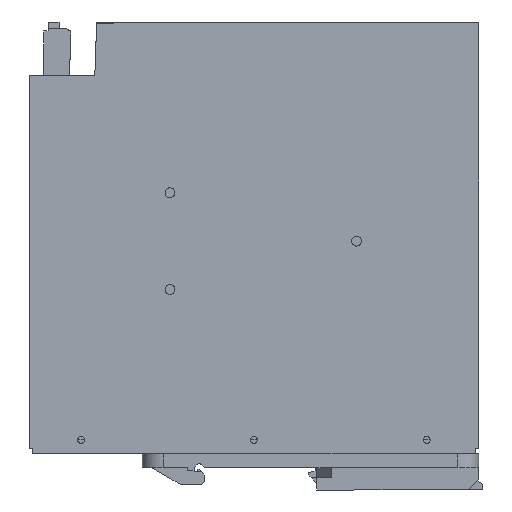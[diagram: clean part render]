
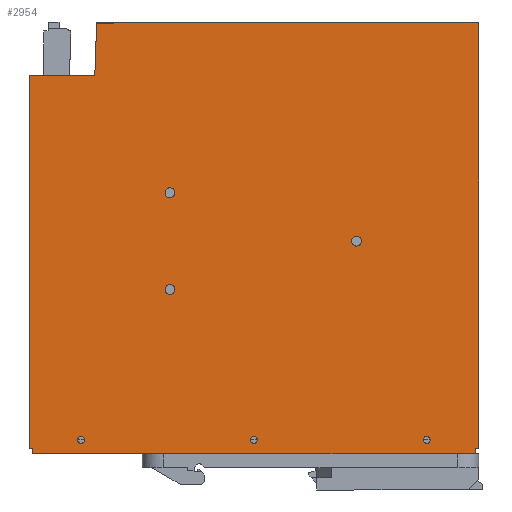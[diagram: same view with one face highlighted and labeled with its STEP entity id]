
A CAD part, left-side view. The second image highlights one B-rep face of the part: STEP entity #2954.
In plain terms, the highlighted planar face has unit normal (-1, 0, 0).
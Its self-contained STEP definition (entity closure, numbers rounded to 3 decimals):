
#2762=AXIS2_PLACEMENT_3D('Plane Axis2P3D',#2759,#2760,#2761) ;
#2848=AXIS2_PLACEMENT_3D('Circle Axis2P3D',#2846,#2847,$) ;
#2857=AXIS2_PLACEMENT_3D('Circle Axis2P3D',#2855,#2856,$) ;
#2866=AXIS2_PLACEMENT_3D('Circle Axis2P3D',#2864,#2865,$) ;
#2875=AXIS2_PLACEMENT_3D('Circle Axis2P3D',#2873,#2874,$) ;
#2884=AXIS2_PLACEMENT_3D('Circle Axis2P3D',#2882,#2883,$) ;
#2893=AXIS2_PLACEMENT_3D('Circle Axis2P3D',#2891,#2892,$) ;
#2902=AXIS2_PLACEMENT_3D('Circle Axis2P3D',#2900,#2901,$) ;
#2911=AXIS2_PLACEMENT_3D('Circle Axis2P3D',#2909,#2910,$) ;
#2920=AXIS2_PLACEMENT_3D('Circle Axis2P3D',#2918,#2919,$) ;
#2929=AXIS2_PLACEMENT_3D('Circle Axis2P3D',#2927,#2928,$) ;
#2938=AXIS2_PLACEMENT_3D('Circle Axis2P3D',#2936,#2937,$) ;
#2947=AXIS2_PLACEMENT_3D('Circle Axis2P3D',#2945,#2946,$) ;
#225=CARTESIAN_POINT('Vertex',(0.,131.2,120.)) ;
#228=CARTESIAN_POINT('Line Origine',(0.,121.715,120.)) ;
#232=CARTESIAN_POINT('Vertex',(0.,112.231,120.)) ;
#923=CARTESIAN_POINT('Vertex',(0.,131.2,12.)) ;
#926=CARTESIAN_POINT('Line Origine',(0.,131.2,66.)) ;
#2759=CARTESIAN_POINT('Axis2P3D Location',(0.,131.2,135.2)) ;
#2764=CARTESIAN_POINT('Line Origine',(0.,111.967,127.55)) ;
#2768=CARTESIAN_POINT('Vertex',(0.,111.703,135.1)) ;
#2771=CARTESIAN_POINT('Line Origine',(0.,130.7,12.)) ;
#2775=CARTESIAN_POINT('Vertex',(0.,130.2,12.)) ;
#2778=CARTESIAN_POINT('Line Origine',(0.,130.2,11.25)) ;
#2782=CARTESIAN_POINT('Vertex',(0.,130.2,10.5)) ;
#2785=CARTESIAN_POINT('Line Origine',(0.,66.2,10.5)) ;
#2789=CARTESIAN_POINT('Vertex',(0.,2.2,10.5)) ;
#2792=CARTESIAN_POINT('Line Origine',(0.,2.2,11.25)) ;
#2796=CARTESIAN_POINT('Vertex',(0.,2.2,12.)) ;
#2799=CARTESIAN_POINT('Line Origine',(0.,1.7,12.)) ;
#2803=CARTESIAN_POINT('Vertex',(0.,1.2,12.)) ;
#2806=CARTESIAN_POINT('Line Origine',(0.,1.2,73.6)) ;
#2810=CARTESIAN_POINT('Vertex',(0.,1.2,135.2)) ;
#2813=CARTESIAN_POINT('Line Origine',(0.,56.45,135.2)) ;
#2817=CARTESIAN_POINT('Vertex',(0.,111.7,135.2)) ;
#2820=CARTESIAN_POINT('Line Origine',(0.,111.7,135.15)) ;
#2824=CARTESIAN_POINT('Vertex',(0.,111.7,135.1)) ;
#2827=CARTESIAN_POINT('Line Origine',(0.,111.702,135.1)) ;
#2846=CARTESIAN_POINT('Axis2P3D Location',(0.,90.5,58.)) ;
#2850=CARTESIAN_POINT('Vertex',(0.,89.249,57.317)) ;
#2852=CARTESIAN_POINT('Vertex',(0.,91.751,58.683)) ;
#2855=CARTESIAN_POINT('Axis2P3D Location',(0.,90.5,58.)) ;
#2864=CARTESIAN_POINT('Axis2P3D Location',(0.,116.2,14.5)) ;
#2868=CARTESIAN_POINT('Vertex',(0.,115.317,14.017)) ;
#2870=CARTESIAN_POINT('Vertex',(0.,117.083,14.983)) ;
#2873=CARTESIAN_POINT('Axis2P3D Location',(0.,116.2,14.5)) ;
#2882=CARTESIAN_POINT('Axis2P3D Location',(0.,66.2,14.5)) ;
#2886=CARTESIAN_POINT('Vertex',(0.,67.083,14.983)) ;
#2888=CARTESIAN_POINT('Vertex',(0.,65.317,14.017)) ;
#2891=CARTESIAN_POINT('Axis2P3D Location',(0.,66.2,14.5)) ;
#2900=CARTESIAN_POINT('Axis2P3D Location',(0.,16.2,14.5)) ;
#2904=CARTESIAN_POINT('Vertex',(0.,17.083,14.983)) ;
#2906=CARTESIAN_POINT('Vertex',(0.,15.317,14.017)) ;
#2909=CARTESIAN_POINT('Axis2P3D Location',(0.,16.2,14.5)) ;
#2918=CARTESIAN_POINT('Axis2P3D Location',(0.,36.5,72.)) ;
#2922=CARTESIAN_POINT('Vertex',(0.,37.751,72.683)) ;
#2924=CARTESIAN_POINT('Vertex',(0.,35.249,71.317)) ;
#2927=CARTESIAN_POINT('Axis2P3D Location',(0.,36.5,72.)) ;
#2936=CARTESIAN_POINT('Axis2P3D Location',(0.,90.5,86.)) ;
#2940=CARTESIAN_POINT('Vertex',(0.,91.751,86.683)) ;
#2942=CARTESIAN_POINT('Vertex',(0.,89.249,85.317)) ;
#2945=CARTESIAN_POINT('Axis2P3D Location',(0.,90.5,86.)) ;
#229=DIRECTION('Vector Direction',(0.,-1.,0.)) ;
#927=DIRECTION('Vector Direction',(0.,0.,1.)) ;
#2760=DIRECTION('Axis2P3D Direction',(-1.,0.,0.)) ;
#2761=DIRECTION('Axis2P3D XDirection',(0.,-1.,0.)) ;
#2765=DIRECTION('Vector Direction',(0.,0.035,-0.999)) ;
#2772=DIRECTION('Vector Direction',(0.,-1.,0.)) ;
#2779=DIRECTION('Vector Direction',(0.,0.,1.)) ;
#2786=DIRECTION('Vector Direction',(0.,-1.,0.)) ;
#2793=DIRECTION('Vector Direction',(0.,0.,1.)) ;
#2800=DIRECTION('Vector Direction',(0.,1.,0.)) ;
#2807=DIRECTION('Vector Direction',(0.,0.,1.)) ;
#2814=DIRECTION('Vector Direction',(0.,-1.,0.)) ;
#2821=DIRECTION('Vector Direction',(0.,0.,-1.)) ;
#2828=DIRECTION('Vector Direction',(0.,-1.,0.)) ;
#2847=DIRECTION('Axis2P3D Direction',(-1.,0.,0.)) ;
#2856=DIRECTION('Axis2P3D Direction',(-1.,0.,0.)) ;
#2865=DIRECTION('Axis2P3D Direction',(-1.,0.,0.)) ;
#2874=DIRECTION('Axis2P3D Direction',(-1.,0.,0.)) ;
#2883=DIRECTION('Axis2P3D Direction',(-1.,0.,0.)) ;
#2892=DIRECTION('Axis2P3D Direction',(-1.,0.,0.)) ;
#2901=DIRECTION('Axis2P3D Direction',(-1.,0.,0.)) ;
#2910=DIRECTION('Axis2P3D Direction',(-1.,0.,0.)) ;
#2919=DIRECTION('Axis2P3D Direction',(-1.,0.,0.)) ;
#2928=DIRECTION('Axis2P3D Direction',(-1.,0.,0.)) ;
#2937=DIRECTION('Axis2P3D Direction',(-1.,0.,0.)) ;
#2946=DIRECTION('Axis2P3D Direction',(-1.,0.,0.)) ;
#230=VECTOR('Line Direction',#229,1.) ;
#928=VECTOR('Line Direction',#927,1.) ;
#2766=VECTOR('Line Direction',#2765,1.) ;
#2773=VECTOR('Line Direction',#2772,1.) ;
#2780=VECTOR('Line Direction',#2779,1.) ;
#2787=VECTOR('Line Direction',#2786,1.) ;
#2794=VECTOR('Line Direction',#2793,1.) ;
#2801=VECTOR('Line Direction',#2800,1.) ;
#2808=VECTOR('Line Direction',#2807,1.) ;
#2815=VECTOR('Line Direction',#2814,1.) ;
#2822=VECTOR('Line Direction',#2821,1.) ;
#2829=VECTOR('Line Direction',#2828,1.) ;
#2833=ORIENTED_EDGE('',*,*,#2770,.F.) ;
#2834=ORIENTED_EDGE('',*,*,#234,.F.) ;
#2835=ORIENTED_EDGE('',*,*,#930,.F.) ;
#2836=ORIENTED_EDGE('',*,*,#2777,.T.) ;
#2837=ORIENTED_EDGE('',*,*,#2784,.F.) ;
#2838=ORIENTED_EDGE('',*,*,#2791,.F.) ;
#2839=ORIENTED_EDGE('',*,*,#2798,.T.) ;
#2840=ORIENTED_EDGE('',*,*,#2805,.F.) ;
#2841=ORIENTED_EDGE('',*,*,#2812,.F.) ;
#2842=ORIENTED_EDGE('',*,*,#2819,.T.) ;
#2843=ORIENTED_EDGE('',*,*,#2826,.T.) ;
#2844=ORIENTED_EDGE('',*,*,#2831,.F.) ;
#2861=ORIENTED_EDGE('',*,*,#2854,.F.) ;
#2862=ORIENTED_EDGE('',*,*,#2859,.F.) ;
#2879=ORIENTED_EDGE('',*,*,#2872,.F.) ;
#2880=ORIENTED_EDGE('',*,*,#2877,.F.) ;
#2897=ORIENTED_EDGE('',*,*,#2890,.F.) ;
#2898=ORIENTED_EDGE('',*,*,#2895,.F.) ;
#2915=ORIENTED_EDGE('',*,*,#2908,.F.) ;
#2916=ORIENTED_EDGE('',*,*,#2913,.F.) ;
#2933=ORIENTED_EDGE('',*,*,#2926,.F.) ;
#2934=ORIENTED_EDGE('',*,*,#2931,.F.) ;
#2951=ORIENTED_EDGE('',*,*,#2944,.F.) ;
#2952=ORIENTED_EDGE('',*,*,#2949,.F.) ;
#2863=FACE_BOUND('',#2860,.T.) ;
#2881=FACE_BOUND('',#2878,.T.) ;
#2899=FACE_BOUND('',#2896,.T.) ;
#2917=FACE_BOUND('',#2914,.T.) ;
#2935=FACE_BOUND('',#2932,.T.) ;
#2953=FACE_BOUND('',#2950,.T.) ;
#2954=ADVANCED_FACE('STROMVERSORGUNG',(#2845,#2863,#2881,#2899,#2917,#2935,#2953),#2763,.T.) ;
#2849=CIRCLE('generated circle',#2848,1.425) ;
#2858=CIRCLE('generated circle',#2857,1.425) ;
#2867=CIRCLE('generated circle',#2866,1.007) ;
#2876=CIRCLE('generated circle',#2875,1.007) ;
#2885=CIRCLE('generated circle',#2884,1.007) ;
#2894=CIRCLE('generated circle',#2893,1.007) ;
#2903=CIRCLE('generated circle',#2902,1.007) ;
#2912=CIRCLE('generated circle',#2911,1.007) ;
#2921=CIRCLE('generated circle',#2920,1.425) ;
#2930=CIRCLE('generated circle',#2929,1.425) ;
#2939=CIRCLE('generated circle',#2938,1.425) ;
#2948=CIRCLE('generated circle',#2947,1.425) ;
#234=EDGE_CURVE('',#226,#233,#231,.T.) ;
#930=EDGE_CURVE('',#924,#226,#929,.T.) ;
#2770=EDGE_CURVE('',#233,#2769,#2767,.F.) ;
#2777=EDGE_CURVE('',#924,#2776,#2774,.T.) ;
#2784=EDGE_CURVE('',#2783,#2776,#2781,.T.) ;
#2791=EDGE_CURVE('',#2790,#2783,#2788,.F.) ;
#2798=EDGE_CURVE('',#2790,#2797,#2795,.T.) ;
#2805=EDGE_CURVE('',#2804,#2797,#2802,.T.) ;
#2812=EDGE_CURVE('',#2811,#2804,#2809,.F.) ;
#2819=EDGE_CURVE('',#2811,#2818,#2816,.F.) ;
#2826=EDGE_CURVE('',#2818,#2825,#2823,.T.) ;
#2831=EDGE_CURVE('',#2769,#2825,#2830,.T.) ;
#2854=EDGE_CURVE('',#2851,#2853,#2849,.T.) ;
#2859=EDGE_CURVE('',#2853,#2851,#2858,.T.) ;
#2872=EDGE_CURVE('',#2869,#2871,#2867,.T.) ;
#2877=EDGE_CURVE('',#2871,#2869,#2876,.T.) ;
#2890=EDGE_CURVE('',#2887,#2889,#2885,.T.) ;
#2895=EDGE_CURVE('',#2889,#2887,#2894,.T.) ;
#2908=EDGE_CURVE('',#2905,#2907,#2903,.T.) ;
#2913=EDGE_CURVE('',#2907,#2905,#2912,.T.) ;
#2926=EDGE_CURVE('',#2923,#2925,#2921,.T.) ;
#2931=EDGE_CURVE('',#2925,#2923,#2930,.T.) ;
#2944=EDGE_CURVE('',#2941,#2943,#2939,.T.) ;
#2949=EDGE_CURVE('',#2943,#2941,#2948,.T.) ;
#2832=EDGE_LOOP('',(#2833,#2834,#2835,#2836,#2837,#2838,#2839,#2840,#2841,#2842,#2843,#2844)) ;
#2860=EDGE_LOOP('',(#2861,#2862)) ;
#2878=EDGE_LOOP('',(#2879,#2880)) ;
#2896=EDGE_LOOP('',(#2897,#2898)) ;
#2914=EDGE_LOOP('',(#2915,#2916)) ;
#2932=EDGE_LOOP('',(#2933,#2934)) ;
#2950=EDGE_LOOP('',(#2951,#2952)) ;
#2845=FACE_OUTER_BOUND('',#2832,.T.) ;
#231=LINE('Line',#228,#230) ;
#929=LINE('Line',#926,#928) ;
#2767=LINE('Line',#2764,#2766) ;
#2774=LINE('Line',#2771,#2773) ;
#2781=LINE('Line',#2778,#2780) ;
#2788=LINE('Line',#2785,#2787) ;
#2795=LINE('Line',#2792,#2794) ;
#2802=LINE('Line',#2799,#2801) ;
#2809=LINE('Line',#2806,#2808) ;
#2816=LINE('Line',#2813,#2815) ;
#2823=LINE('Line',#2820,#2822) ;
#2830=LINE('Line',#2827,#2829) ;
#2763=PLANE('',#2762) ;
#226=VERTEX_POINT('',#225) ;
#233=VERTEX_POINT('',#232) ;
#924=VERTEX_POINT('',#923) ;
#2769=VERTEX_POINT('',#2768) ;
#2776=VERTEX_POINT('',#2775) ;
#2783=VERTEX_POINT('',#2782) ;
#2790=VERTEX_POINT('',#2789) ;
#2797=VERTEX_POINT('',#2796) ;
#2804=VERTEX_POINT('',#2803) ;
#2811=VERTEX_POINT('',#2810) ;
#2818=VERTEX_POINT('',#2817) ;
#2825=VERTEX_POINT('',#2824) ;
#2851=VERTEX_POINT('',#2850) ;
#2853=VERTEX_POINT('',#2852) ;
#2869=VERTEX_POINT('',#2868) ;
#2871=VERTEX_POINT('',#2870) ;
#2887=VERTEX_POINT('',#2886) ;
#2889=VERTEX_POINT('',#2888) ;
#2905=VERTEX_POINT('',#2904) ;
#2907=VERTEX_POINT('',#2906) ;
#2923=VERTEX_POINT('',#2922) ;
#2925=VERTEX_POINT('',#2924) ;
#2941=VERTEX_POINT('',#2940) ;
#2943=VERTEX_POINT('',#2942) ;
